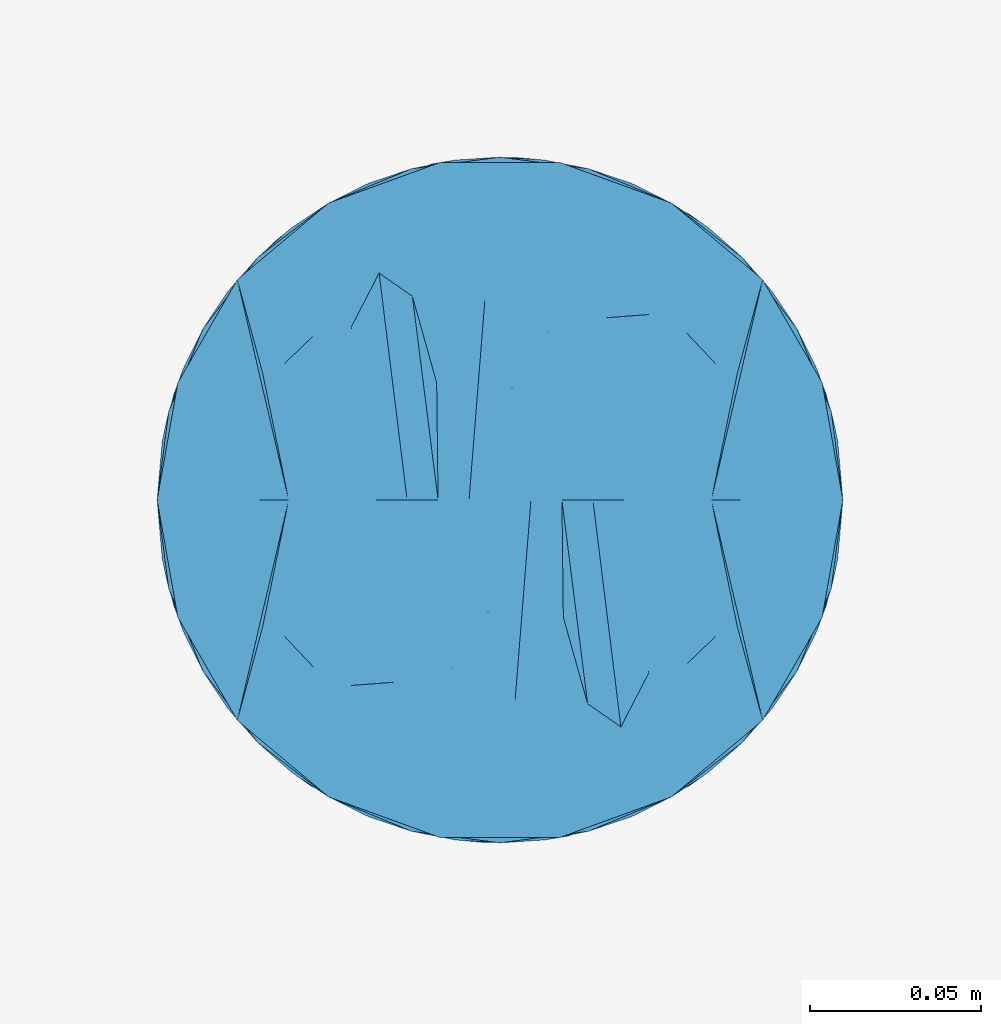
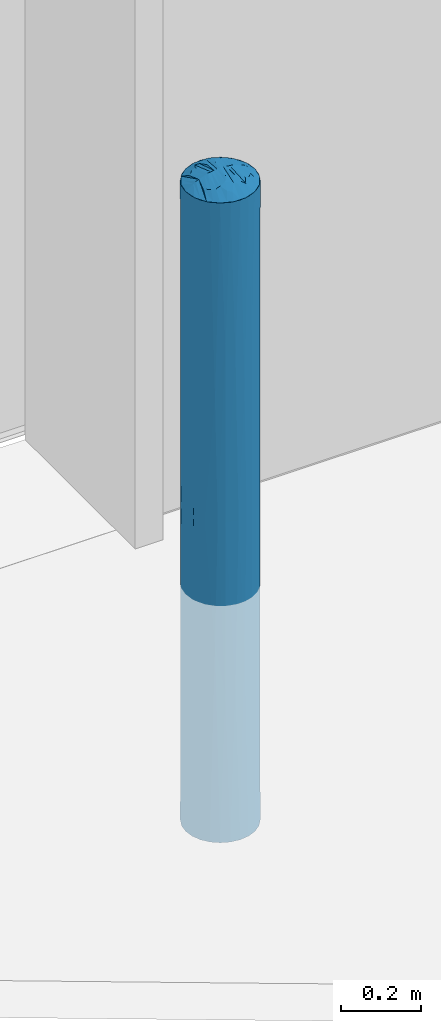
# One storey, part 43 of 77: 1 discrete accessory.
"""IFC2X3 building model written with IfcOpenShell, lengths in millimetres."""

import ifcopenshell
import ifcopenshell.guid

model = None  # the IFC model being written
_history = None  # IfcOwnerHistory: only IFC2X3 demands one
_inside = {}  # id of a spatial element -> (the spatial element, [elements in it])
_under = {}  # id of a project, library or spatial element -> (it, [spatial elements below it])
_declared = {}  # id of a project -> (the project, [libraries it declares])
_typed = {}  # id of a type object -> (the type object, [elements of that type])
_made_of = {}  # id of a material, layer set ... -> (it, [elements and type objects made of it])


def new_model(schema):
    """Start an empty IFC model of exactly this schema.

    Asked for "IFC4X3", IfcOpenShell would pick the latest addendum, in which some entities
    have other attributes; the version numbers below select the first issue.
    IFC2X3 requires an IfcOwnerHistory on every rooted entity: one is made here for all.
    """
    global model, _history
    if schema == "IFC4X3":
        model = ifcopenshell.file(schema_version=(4, 3, 0, 0))
    else:
        model = ifcopenshell.file(schema=schema)
    _inside.clear()
    _under.clear()
    _declared.clear()
    _typed.clear()
    _made_of.clear()
    _history = None
    if model.schema == "IFC2X3":
        org = make("IfcOrganization", Name="unknown")
        user = make(
            "IfcPersonAndOrganization",
            ThePerson=make("IfcPerson", FamilyName="unknown"),
            TheOrganization=org,
        )
        app = make(
            "IfcApplication",
            ApplicationDeveloper=org,
            Version="unknown",
            ApplicationFullName="unknown",
            ApplicationIdentifier="unknown",
        )
        _history = make(
            "IfcOwnerHistory",
            OwningUser=user,
            OwningApplication=app,
            ChangeAction="ADDED",
            CreationDate=0,
        )
    return model


def make(cls, **values):
    """One entity of the class cls with the attributes given. An attribute that is None is left unset."""
    return model.create_entity(
        cls, **{name: value for name, value in values.items() if value is not None}
    )


def entity(cls, *values):
    """Any entity or typed value of the class cls, its attributes in the order of the schema. None: left unset."""
    e = model.create_entity(cls)
    for i, value in enumerate(values):
        if value is not None:
            e[i] = value
    return e


def rooted(cls, **values):
    """An entity with a GlobalId (a new one), such as an element, a storey or a relation."""
    return make(cls, GlobalId=ifcopenshell.guid.new(), OwnerHistory=_history, **values)


def si_unit(unit_type, name, prefix=None):
    """IfcSIUnit, for example si_unit("LENGTHUNIT", "METRE", prefix="MILLI")."""
    return make("IfcSIUnit", UnitType=unit_type, Prefix=prefix, Name=name)


def converted_unit(unit_type, name, factor, base, dimensions=None, offset=None):
    """IfcConversionBasedUnit, such as the inch: factor (a typed value) times the base unit."""
    return make(
        "IfcConversionBasedUnit"
        if offset is None
        else "IfcConversionBasedUnitWithOffset",
        ConversionOffset=offset,
        Dimensions=None
        if dimensions is None
        else entity("IfcDimensionalExponents", *dimensions),
        UnitType=unit_type,
        Name=name,
        ConversionFactor=make(
            "IfcMeasureWithUnit", ValueComponent=factor, UnitComponent=base
        ),
    )


def derived_unit(unit_type, elements):
    """IfcDerivedUnit: a product of units, each with its exponent."""
    return make(
        "IfcDerivedUnit",
        Elements=[
            make("IfcDerivedUnitElement", Unit=unit, Exponent=power)
            for unit, power in elements
        ],
        UnitType=unit_type,
    )


def assignment(units):
    """IfcUnitAssignment: the units of a project."""
    return None if units is None else make("IfcUnitAssignment", Units=units)


def point(xyz):
    """IfcCartesianPoint."""
    return None if xyz is None else make("IfcCartesianPoint", Coordinates=xyz)


def direction(xyz):
    """IfcDirection."""
    return None if xyz is None else make("IfcDirection", DirectionRatios=xyz)


def frame(location, z_axis=None, x_axis=None):
    """IfcAxis2Placement3D, a coordinate frame: its origin and axes. An axis left out is left unset."""
    return make(
        "IfcAxis2Placement3D",
        Location=point(location),
        Axis=direction(z_axis),
        RefDirection=direction(x_axis),
    )


def origin():
    """The frame at (0, 0, 0) with its axes left unset."""
    return frame((0.0, 0.0, 0.0))


def place(relative_to, where):
    """IfcLocalPlacement: puts the frame where relative to a parent placement (None: the world)."""
    return make(
        "IfcLocalPlacement", PlacementRelTo=relative_to, RelativePlacement=where
    )


def context(
    kind, dimensions, precision=None, world=None, true_north=None, identifier=None
):
    """IfcGeometricRepresentationContext, for example the 3D "Model" context."""
    return make(
        "IfcGeometricRepresentationContext",
        ContextIdentifier=identifier,
        ContextType=kind,
        CoordinateSpaceDimension=dimensions,
        Precision=precision,
        WorldCoordinateSystem=world,
        TrueNorth=true_north,
    )


def subcontext(parent, identifier, kind, view, scale=None):
    """IfcGeometricRepresentationSubContext, for example "Body" below "Model"."""
    return make(
        "IfcGeometricRepresentationSubContext",
        ContextIdentifier=identifier,
        ContextType=kind,
        ParentContext=parent,
        TargetScale=scale,
        TargetView=view,
    )


def project(units=None, contexts=None):
    """IfcProject with its units and contexts."""
    return rooted(
        "IfcProject",
        Name="project",
        RepresentationContexts=contexts,
        UnitsInContext=assignment(units),
    )


def spatial(cls, under=None, at=None, **own):
    """A site, building, storey or space (cls), placed at a placement, below another one or the project."""
    s = rooted(cls, ObjectPlacement=at, **own)
    if under is not None:
        _under.setdefault(under.id(), (under, []))[1].append(s)
    return s


def faces_of(points, faces, orient=None, outer=None):
    """IfcFace entities. A face is a list of loops; a loop is a list of indices into points, from 0.

    orient and outer hold one flag for each loop. By default every Orientation is true, the
    first loop of a face is its IfcFaceOuterBound and the others are IfcFaceBound.
    """
    made = []
    for i, loops in enumerate(faces):
        bounds = []
        for j, loop in enumerate(loops):
            is_outer = j == 0 if outer is None else outer[i][j]
            bounds.append(
                make(
                    "IfcFaceOuterBound" if is_outer else "IfcFaceBound",
                    Bound=make("IfcPolyLoop", Polygon=[points[k] for k in loop]),
                    Orientation=True if orient is None else orient[i][j],
                )
            )
        made.append(make("IfcFace", Bounds=bounds))
    return made


def faceted_brep(points, faces, orient=None, outer=None, voids=None):
    """IfcFacetedBrep: a solid bounded by flat faces; with voids (closed shells), ...WithVoids."""
    shared = [point(p) for p in points]
    hull = make("IfcClosedShell", CfsFaces=faces_of(shared, faces, orient, outer))
    if voids is None:
        return make("IfcFacetedBrep", Outer=hull)
    return make(
        "IfcFacetedBrepWithVoids",
        Outer=hull,
        Voids=[
            make(cls, CfsFaces=faces_of(shared, fs, o, b)) for cls, fs, o, b in voids
        ],
    )


def shape(context_of_items, identifier, shape_type, items):
    """IfcShapeRepresentation: the items that make up one representation, for example the "Body"."""
    return make(
        "IfcShapeRepresentation",
        ContextOfItems=context_of_items,
        RepresentationIdentifier=identifier,
        RepresentationType=shape_type,
        Items=items,
    )


def source(mapping_origin, context_of_items, identifier, shape_type, items):
    """IfcRepresentationMap: a shape defined once, which mapped items show again and again."""
    return make(
        "IfcRepresentationMap",
        MappingOrigin=mapping_origin,
        MappedRepresentation=shape(context_of_items, identifier, shape_type, items),
    )


def transform(
    local_origin,
    x_axis=None,
    y_axis=None,
    z_axis=None,
    scale=None,
    scale2=None,
    scale3=None,
    uniform=True,
):
    """IfcCartesianTransformationOperator3D, or its non-uniform kind. x_axis, y_axis, z_axis: its Axis1, 2, 3."""
    if uniform:
        return make(
            "IfcCartesianTransformationOperator3D",
            Axis1=direction(x_axis),
            Axis2=direction(y_axis),
            LocalOrigin=point(local_origin),
            Scale=scale,
            Axis3=direction(z_axis),
        )
    return make(
        "IfcCartesianTransformationOperator3DnonUniform",
        Axis1=direction(x_axis),
        Axis2=direction(y_axis),
        LocalOrigin=point(local_origin),
        Scale=scale,
        Axis3=direction(z_axis),
        Scale2=scale2,
        Scale3=scale3,
    )


def mapped(mapping_source, mapping_target):
    """IfcMappedItem: shows the shape of a source again, moved by a transform."""
    return make(
        "IfcMappedItem", MappingSource=mapping_source, MappingTarget=mapping_target
    )


def material(Name=None, Category=None):
    """IfcMaterial."""
    return make("IfcMaterial", Name=Name, Category=Category)


def made_of(thing, what):
    """Note that an element or type object is made of a material, layer set ...; save() writes the relation."""
    if what is not None:
        _made_of.setdefault(what.id(), (what, []))[1].append(thing)
    return thing


def type_object(cls, material=None, **own):
    """A type object (cls), such as IfcWallType, which elements share."""
    return made_of(rooted(cls, **own), material)


def type_shapes(of_type, sources):
    """Give a type object the sources (RepresentationMaps) that its elements show as mapped items."""
    of_type.RepresentationMaps = sources


def element(
    cls,
    number,
    at=None,
    inside=None,
    cuts=None,
    type_object=None,
    material=None,
    context=None,
    identifier="Body",
    shape_type=None,
    held_by="IfcProductDefinitionShape",
    body=None,
    shapes=None,
    **own,
):
    """One element of the class cls, such as IfcWall. Its Tag is "e" and its number.

    at: its placement. inside: the storey or other place that contains it. cuts: it is an
    opening in that element (IfcRelVoidsElement). A single representation is given by context,
    identifier, shape_type and body (its items); several are given by shapes. held_by: the class
    of the entity that holds the representations. save() writes the other relations.
    """
    e = rooted(cls, Tag="e%d" % number, ObjectPlacement=at, **own)
    if body is not None:
        shapes = [shape(context, identifier, shape_type, body)]
    if shapes is not None:
        e.Representation = make(held_by, Representations=shapes)
    if inside is not None:
        _inside.setdefault(inside.id(), (inside, []))[1].append(e)
    if cuts is not None:
        rooted(
            "IfcRelVoidsElement", RelatingBuildingElement=cuts, RelatedOpeningElement=e
        )
    if type_object is not None:
        _typed.setdefault(type_object.id(), (type_object, []))[1].append(e)
    return made_of(e, material)


def aggregate(whole, parts):
    """IfcRelAggregates: a whole, such as a stair, and the parts it consists of."""
    return rooted("IfcRelAggregates", RelatingObject=whole, RelatedObjects=parts)


def save(model, path):
    """Write the relations noted so far, then the file.

    IfcRelAggregates (storeys below a building ...), IfcRelContainedInSpatialStructure (elements
    in a storey), IfcRelDefinesByType, IfcRelAssociatesMaterial and IfcRelDeclares: one each for
    every whole, place, type object, material and project.
    """
    for whole, parts in _under.values():
        aggregate(whole, parts)
    for where, things in _inside.values():
        rooted(
            "IfcRelContainedInSpatialStructure",
            RelatedElements=things,
            RelatingStructure=where,
        )
    for kind, things in _typed.values():
        rooted("IfcRelDefinesByType", RelatedObjects=things, RelatingType=kind)
    for what, things in _made_of.values():
        rooted("IfcRelAssociatesMaterial", RelatedObjects=things, RelatingMaterial=what)
    for by, libraries in _declared.values():
        rooted("IfcRelDeclares", RelatingContext=by, RelatedDefinitions=libraries)
    model.write(path)


model = new_model("IFC2X3")

# Units and contexts
model_context = context("Model", 3, precision=0.01, world=origin(), true_north=direction((6.12303176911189e-17, 1.0)))
body_context = subcontext(model_context, "Body", "Model", "MODEL_VIEW")
ifc_project = project(units=[si_unit("LENGTHUNIT", "METRE", prefix="MILLI"), si_unit("AREAUNIT", "SQUARE_METRE"), si_unit("VOLUMEUNIT", "CUBIC_METRE"), converted_unit("PLANEANGLEUNIT", "DEGREE", entity("IfcRatioMeasure", 0.0174532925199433), si_unit("PLANEANGLEUNIT", "RADIAN"), dimensions=[0, 0, 0, 0, 0, 0, 0]), si_unit("MASSUNIT", "GRAM", prefix="KILO"), derived_unit("MASSDENSITYUNIT", [(si_unit("MASSUNIT", "GRAM", prefix="KILO"), 1), (si_unit("LENGTHUNIT", "METRE"), -3)]), si_unit("TIMEUNIT", "SECOND"), si_unit("FREQUENCYUNIT", "HERTZ"), si_unit("THERMODYNAMICTEMPERATUREUNIT", "DEGREE_CELSIUS"), derived_unit("THERMALTRANSMITTANCEUNIT", [(si_unit("MASSUNIT", "GRAM", prefix="KILO"), 1), (si_unit("THERMODYNAMICTEMPERATUREUNIT", "KELVIN"), -1), (si_unit("TIMEUNIT", "SECOND"), -3)]), derived_unit("VOLUMETRICFLOWRATEUNIT", [(si_unit("LENGTHUNIT", "METRE"), 3), (si_unit("TIMEUNIT", "SECOND"), -1)]), si_unit("ELECTRICCURRENTUNIT", "AMPERE"), si_unit("ELECTRICVOLTAGEUNIT", "VOLT"), si_unit("POWERUNIT", "WATT"), si_unit("FORCEUNIT", "NEWTON", prefix="KILO"), si_unit("ILLUMINANCEUNIT", "LUX"), si_unit("LUMINOUSFLUXUNIT", "LUMEN"), si_unit("LUMINOUSINTENSITYUNIT", "CANDELA"), derived_unit("USERDEFINED", [(si_unit("MASSUNIT", "GRAM", prefix="KILO"), -1), (si_unit("LENGTHUNIT", "METRE"), -2), (si_unit("TIMEUNIT", "SECOND"), 3), (si_unit("LUMINOUSFLUXUNIT", "LUMEN"), 1)]), derived_unit("LINEARVELOCITYUNIT", [(si_unit("LENGTHUNIT", "METRE"), 1), (si_unit("TIMEUNIT", "SECOND"), -1)]), si_unit("PRESSUREUNIT", "PASCAL"), derived_unit("USERDEFINED", [(si_unit("LENGTHUNIT", "METRE"), -2), (si_unit("MASSUNIT", "GRAM", prefix="KILO"), 1), (si_unit("TIMEUNIT", "SECOND"), -2)])], contexts=[model_context])

# Site, building, storey
site_placement = place(None, origin())
site = spatial("IfcSite", under=ifc_project, at=site_placement, Name="Default", CompositionType="ELEMENT")
building_placement = place(site_placement, origin())
building = spatial("IfcBuilding", under=site, at=building_placement, CompositionType="ELEMENT")
storey_placement = place(building_placement, origin())
storey = spatial("IfcBuildingStorey", under=building, at=storey_placement, Name="1. KORRUS", CompositionType="ELEMENT", Elevation=0.0)

# Discrete accessory
ifc_material = material(Name="Default New Material-must-varv")
discrete_accessory_type = type_object("IfcDiscreteAccessoryType", Name="ukse-pollar", material=ifc_material)
shared_shape = source(origin(), body_context, "Body", "Brep", [
    faceted_brep([(93.969262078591, -34.2020143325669, 1200.0), (95.8287421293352, -23.6563789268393, 1200.0), (97.6882221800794, -13.1107435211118, 1200.0), (100.0, 0.0, 1200.0), (91.8749158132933, 0.0, 1205.6559032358), (83.7498316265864, 0.0, 1211.3118064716), (76.9390417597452, 0.0, 1216.05282423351), (69.2436158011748, -37.0764107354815, 1215.9880775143), (62.8416939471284, -39.8030161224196, 1218.4526620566), (63.3022221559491, -75.4406506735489, 1200.0), (-91.8749158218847, 0.0, 1205.65590322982), (-100.0, 0.0, 1200.0), (-97.6882221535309, -13.110743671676, 1200.0), (-95.8287421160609, -23.6563790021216, 1200.0), (-93.9692620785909, -34.2020143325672, 1200.0), (-76.9390417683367, 0.0, 1216.05282422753), (-83.7498316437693, 0.0, 1211.31180645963), (76.604444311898, -64.278760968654, 1200.0), (61.6281008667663, 0.0, 1224.0406107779), (85.2868531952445, -49.2403876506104, 1200.0), (4.40844307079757, -58.3778316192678, 1226.30016518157), (9.03191194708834, 0.0, 1237.09268012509), (-3.54862814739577, -32.9400963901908, 1234.4920463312), (44.627798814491, 0.0, 1230.53414834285), (54.6170308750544, -47.6944043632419, 1219.50624940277), (17.3648177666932, -98.4807753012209, 1200.0), (33.6824088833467, -92.5416578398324, 1200.0), (25.5588463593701, -59.4119136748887, 1223.53680168), (50.0, -86.6025403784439, 1200.0), (43.4209832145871, -50.3665618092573, 1222.6504135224), (36.1276477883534, 0.0, 1233.78091712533), (-85.2868531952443, -49.2403876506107, 1200.0), (-70.128251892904, 0.0, 1220.79384199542), (-76.6044443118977, -64.2787609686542, 1200.0), (-61.6281008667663, 0.0, 1224.0406107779), (70.128251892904, 0.0, 1220.79384199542), (-43.3922707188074, -54.0995868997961, 1221.20165944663), (-54.4185160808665, -48.7244133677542, 1219.21017541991), (-50.0, -86.6025403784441, 1200.0), (35.2622305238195, -66.2009236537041, 1218.09661192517), (27.095735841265, 0.0, 1234.88483812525), (-63.3022221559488, -75.4406506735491, 1200.0), (-62.8416940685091, -39.8030246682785, 1218.45265938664), (18.4754636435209, -34.2574490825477, 1233.0588958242), (18.0638238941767, 0.0, 1235.98875912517), (-53.1279498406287, 0.0, 1227.28737956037), (-69.2436179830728, -37.0764202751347, 1215.98807356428), (15.0400910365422, -63.9380091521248, 1223.05106581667), (0.0, -98.4807753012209, 1200.0), (-21.4967364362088, -71.3818883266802, 1218.36002279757), (-31.093916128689, -53.1550996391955, 1224.97270928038), (-33.6824088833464, -92.5416578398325, 1200.0), (-36.1276477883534, 0.0, 1233.78091712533), (-27.095735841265, 0.0, 1234.88483812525), (-13.9644320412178, -48.8776365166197, 1229.32055829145), (53.1279498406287, 0.0, 1227.28737956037), (-44.627798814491, 0.0, 1230.53414834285), (-18.0638238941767, 0.0, 1235.98875912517), (-9.03191194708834, 0.0, 1237.09268012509), (-9.80597558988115, -78.5292492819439, 1215.62108797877), (-17.3648177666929, -98.480775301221, 1200.0), (0.0, 0.0, 1238.19660112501), (-93.9692620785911, 34.2020143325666, 1200.0), (-95.8287421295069, 23.6563789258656, 1200.0), (-97.6882221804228, 13.1107435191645, 1200.0), (50.0, 86.6025403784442, 1200.0), (54.4185175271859, 48.7244091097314, 1219.21017640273), (63.3022221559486, 75.4406506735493, 1200.0), (97.6882221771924, 13.110743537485, 1200.0), (95.8287421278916, 23.6563789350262, 1200.0), (93.9692620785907, 34.2020143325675, 1200.0), (-76.6044443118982, 64.2787609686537, 1200.0), (-69.2436157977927, 37.076410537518, 1215.98807757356), (-85.2868531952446, 49.2403876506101, 1200.0), (-4.40844201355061, 58.377832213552, 1226.30016496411), (3.5486282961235, 32.9400954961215, 1234.4920465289), (-54.6170308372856, 47.6944042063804, 1219.50624947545), (-62.8416938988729, 39.8030161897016, 1218.45266205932), (-17.3648177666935, 98.4807753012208, 1200.0), (-33.6824088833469, 92.5416578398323, 1200.0), (-25.5588462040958, 59.4119134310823, 1223.53680181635), (85.2868531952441, 49.240387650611, 1200.0), (-43.420983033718, 50.3665619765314, 1222.65041351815), (62.8416939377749, 39.803016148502, 1218.45266205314), (43.3922717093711, 54.0995849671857, 1221.20165990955), (-50.0, 86.6025403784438, 1200.0), (-63.3022221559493, 75.4406506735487, 1200.0), (-18.4754634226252, 34.2574489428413, 1233.05889588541), (76.6044443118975, 64.2787609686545, 1200.0), (69.2436157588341, 37.0764105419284, 1215.98807759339), (-35.2622303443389, 66.2009242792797, 1218.09661165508), (-15.0400904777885, 63.938008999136, 1223.05106595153), (0.0, 98.4807753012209, 1200.0), (21.4967358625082, 71.3818881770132, 1218.3600229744), (31.0939160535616, 53.1551002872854, 1224.97270904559), (33.6824088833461, 92.5416578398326, 1200.0), (13.964432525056, 48.8776338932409, 1229.32055915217), (9.80597229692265, 78.5292495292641, 1215.62108807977), (17.3648177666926, 98.480775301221, 1200.0), (0.0, 0.0, 1200.0)], [[[0, 1, 2, 3, 4, 5, 6]], [[7, 8, 9]], [[10, 11, 12, 13, 14, 15, 16]], [[17, 18, 7]], [[0, 6, 19]], [[17, 19, 18]], [[20, 21, 22]], [[23, 24, 8]], [[25, 26, 27]], [[28, 24, 29]], [[29, 24, 30]], [[31, 32, 15]], [[33, 34, 31]], [[35, 19, 6]], [[32, 31, 34]], [[36, 37, 38]], [[39, 29, 40]], [[15, 14, 31]], [[41, 37, 42]], [[21, 43, 44]], [[18, 19, 35]], [[45, 34, 46]], [[38, 37, 41]], [[42, 45, 46]], [[40, 44, 27]], [[43, 20, 47]], [[28, 39, 26]], [[48, 25, 47]], [[49, 50, 51]], [[52, 36, 53]], [[22, 54, 20]], [[29, 30, 40]], [[26, 39, 27]], [[8, 55, 23]], [[9, 24, 28]], [[23, 30, 24]], [[55, 8, 7]], [[9, 8, 24]], [[56, 42, 37]], [[54, 50, 49]], [[50, 53, 36]], [[53, 50, 57]], [[54, 57, 50]], [[38, 51, 36]], [[58, 57, 54]], [[20, 59, 48]], [[52, 37, 36]], [[50, 36, 51]], [[45, 42, 56]], [[37, 52, 56]], [[33, 41, 46]], [[55, 7, 18]], [[17, 7, 9]], [[42, 46, 41]], [[33, 46, 34]], [[27, 43, 47]], [[44, 43, 27]], [[43, 21, 20]], [[47, 25, 27]], [[60, 59, 49]], [[20, 48, 47]], [[27, 39, 40]], [[29, 39, 28]], [[54, 22, 58]], [[61, 58, 22]], [[61, 22, 21]], [[54, 49, 59]], [[60, 49, 51]], [[54, 59, 20]], [[59, 60, 48]], [[62, 63, 64, 11, 10, 16, 15]], [[65, 66, 67]], [[4, 3, 68, 69, 70, 6, 5]], [[71, 34, 72]], [[71, 73, 34]], [[74, 58, 75]], [[56, 76, 77]], [[78, 79, 80]], [[35, 81, 18]], [[82, 76, 52]], [[67, 66, 83]], [[62, 15, 73]], [[70, 81, 6]], [[32, 73, 15]], [[84, 66, 65]], [[85, 76, 82]], [[72, 77, 86]], [[6, 81, 35]], [[58, 87, 57]], [[88, 18, 81]], [[34, 73, 32]], [[55, 18, 89]], [[83, 55, 89]], [[90, 82, 53]], [[53, 57, 80]], [[87, 74, 91]], [[85, 90, 79]], [[92, 78, 91]], [[93, 94, 95]], [[30, 84, 40]], [[75, 96, 74]], [[82, 52, 53]], [[79, 90, 80]], [[77, 45, 56]], [[86, 76, 85]], [[56, 52, 76]], [[45, 77, 72]], [[86, 77, 76]], [[23, 83, 66]], [[96, 94, 93]], [[94, 40, 84]], [[40, 94, 44]], [[96, 44, 94]], [[65, 95, 84]], [[21, 44, 96]], [[74, 97, 92]], [[30, 66, 84]], [[94, 84, 95]], [[55, 83, 23]], [[66, 30, 23]], [[88, 67, 89]], [[45, 72, 34]], [[71, 72, 86]], [[83, 89, 67]], [[88, 89, 18]], [[80, 87, 91]], [[57, 87, 80]], [[87, 58, 74]], [[91, 78, 80]], [[98, 97, 93]], [[74, 92, 91]], [[80, 90, 53]], [[82, 90, 85]], [[96, 75, 21]], [[61, 21, 75]], [[61, 75, 58]], [[96, 93, 97]], [[98, 93, 95]], [[96, 97, 74]], [[97, 98, 92]], [[99, 33, 31]], [[99, 31, 14]], [[99, 14, 13]], [[99, 41, 33]], [[99, 38, 41]], [[99, 51, 38]], [[99, 60, 51]], [[99, 13, 12]], [[99, 12, 11]], [[99, 11, 64]], [[99, 48, 60]], [[99, 25, 48]], [[99, 26, 25]], [[99, 28, 26]], [[99, 9, 28]], [[99, 17, 9]], [[99, 19, 17]], [[99, 0, 19]], [[99, 1, 0]], [[99, 2, 1]], [[99, 3, 2]], [[99, 64, 63]], [[99, 63, 62]], [[99, 62, 73]], [[99, 73, 71]], [[99, 71, 86]], [[99, 86, 85]], [[99, 85, 79]], [[99, 79, 78]], [[99, 78, 92]], [[99, 68, 3]], [[99, 69, 68]], [[99, 70, 69]], [[99, 81, 70]], [[99, 88, 81]], [[99, 67, 88]], [[99, 65, 67]], [[99, 95, 65]], [[99, 98, 95]], [[99, 92, 98]]]),
    faceted_brep([(70.7106781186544, 70.7106781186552, 1200.0), (50.0, 86.6025403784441, 1200.0), (25.8819045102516, 96.592582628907, 1200.0), (0.0, 100.0, 1200.0), (-25.8819045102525, 96.5925826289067, 1200.0), (-50.0, 86.6025403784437, 1200.0), (-70.710678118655, 70.7106781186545, 1200.0), (-86.6025403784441, 50.0, 1200.0), (-96.5925826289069, 25.8819045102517, 1200.0), (-100.0, 0.0, 1200.0), (-96.5925826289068, -25.8819045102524, 1200.0), (-86.6025403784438, -50.0, 1200.0), (-70.7106781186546, -70.7106781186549, 1200.0), (-50.0, -86.602540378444, 1200.0), (-25.8819045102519, -96.5925826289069, 1200.0), (0.0, -100.0, 1200.0), (25.8819045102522, -96.5925826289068, 1200.0), (50.0, -86.6025403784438, 1200.0), (70.7106781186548, -70.7106781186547, 1200.0), (86.6025403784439, -50.0, 1200.0), (96.5925826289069, -25.8819045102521, 1200.0), (100.0, 0.0, 1200.0), (96.5925826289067, 25.8819045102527, 1200.0), (86.6025403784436, 50.0, 1200.0), (50.0, -86.6025403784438, -750.0), (25.8819045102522, -96.5925826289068, -750.0), (0.0, -100.0, -750.0), (-25.8819045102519, -96.5925826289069, -750.0), (-50.0, -86.602540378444, -750.0), (-70.7106781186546, -70.7106781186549, -750.0), (-86.6025403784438, -50.0, -750.0), (-96.5925826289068, -25.8819045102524, -750.0), (-100.0, 0.0, -750.0), (-96.5925826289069, 25.8819045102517, -750.0), (-86.6025403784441, 50.0, -750.0), (-70.710678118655, 70.7106781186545, -750.0), (-50.0, 86.6025403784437, -750.0), (-25.8819045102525, 96.5925826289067, -750.0), (0.0, 100.0, -750.0), (25.8819045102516, 96.592582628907, -750.0), (50.0, 86.6025403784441, -750.0), (70.7106781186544, 70.7106781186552, -750.0), (86.6025403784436, 50.0, -750.0), (96.5925826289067, 25.8819045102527, -750.0), (100.0, 0.0, -750.0), (96.5925826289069, -25.8819045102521, -750.0), (86.6025403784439, -50.0, -750.0), (70.7106781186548, -70.7106781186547, -750.0), (-92.387953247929, 38.2683432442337, -285.980854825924), (-95.1291375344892, 30.8293235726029, 225.0), (-79.3353340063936, 60.8761429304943, 225.0), (-60.8761428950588, 79.3353340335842, -151.214692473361), (-38.2683432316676, 92.3879532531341, -299.59510263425), (60.8761429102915, 79.3353340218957, 601.214692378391), (79.335334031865, 60.8761428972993, 225.0), (55.4391010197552, 83.225633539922, 225.0), (-79.3353340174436, 60.8761429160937, 749.595102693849), (4.65337325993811, 99.8916719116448, 225.0), (13.0526192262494, 99.1444861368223, -269.40187286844), (-13.0526192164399, 99.1444861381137, -151.214692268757), (-38.2683432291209, 92.387953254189, 225.0), (-38.2683432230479, 92.3879532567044, 749.595102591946), (-19.6480455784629, 98.0507741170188, 225.0), (-79.3353340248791, 60.8761429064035, -299.595102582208), (-60.876142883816, 79.3353340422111, 601.214692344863), (60.8761429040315, 79.3353340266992, -151.214692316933), (79.335334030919, 60.8761428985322, -299.595102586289), (-98.5078583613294, 17.2105154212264, -334.254320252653), (-100.0, 0.0, -51.6568483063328), (-100.0, 0.0, 501.662546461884), (-98.507858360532, 17.2105154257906, 784.254320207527), (-92.3879532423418, 38.2683432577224, 735.980854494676), (100.0, 0.0, -51.6591080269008), (95.1291375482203, 30.8293235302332, 225.0), (100.0, 0.0, 501.659108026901), (-55.4391010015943, 83.2256335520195, 225.0), (38.2683432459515, 92.3879532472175, 749.595102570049), (-13.0526192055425, 99.1444861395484, 601.214692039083), (38.2683432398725, 92.3879532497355, -299.595102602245), (92.3879532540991, 38.2683432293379, 735.980854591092), (92.3879532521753, 38.2683432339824, -285.980854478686), (79.335334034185, 60.8761428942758, 749.595102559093), (98.5078583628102, 17.2105154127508, 784.254320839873), (13.0526192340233, 99.1444861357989, 719.401872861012), (98.5078583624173, 17.2105154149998, -334.254320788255), (38.268343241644, 92.3879532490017, 225.0), (98.5078583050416, -17.210515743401, -334.254323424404), (-60.876142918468, -79.3353340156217, -151.214692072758), (-79.3353340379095, -60.8761428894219, -299.595102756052), (79.3353338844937, -60.8761430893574, -299.595101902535), (13.0526191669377, -99.1444861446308, -151.214692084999), (38.2683431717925, -92.3879532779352, -299.595102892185), (38.2683431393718, -92.3879532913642, 225.0), (38.2683431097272, -92.3879533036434, 749.595103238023), (19.6480455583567, -98.0507741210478, 225.0), (-13.0526193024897, -99.1444861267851, 719.401872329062), (60.8761427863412, -79.3353341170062, -151.214692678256), (66.0410934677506, -75.0904386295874, 225.000002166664), (-4.6533732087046, -99.8916719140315, 224.999998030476), (-13.0526192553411, -99.1444861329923, -269.401871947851), (95.1291373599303, -30.829324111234, 225.000013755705), (-95.1291375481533, -30.8293235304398, 225.0), (-98.5078583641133, -17.210515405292, -334.254320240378), (-92.3879532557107, -38.2683432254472, -285.980854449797), (79.3353338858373, -60.8761430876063, 749.595105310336), (79.3353338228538, -60.876143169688, 225.000002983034), (92.3879530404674, -38.2683437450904, -285.980851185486), (-38.2683432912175, -92.3879532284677, 749.595102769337), (92.38795316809, -38.2683434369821, 735.980862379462), (60.8761427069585, -79.3353341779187, 601.214694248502), (13.0526190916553, -99.144486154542, 601.214690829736), (-60.8761429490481, -79.3353339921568, 601.214692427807), (-79.3353340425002, -60.8761428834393, 225.0), (-55.4391010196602, -83.2256335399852, 225.0), (-38.2683432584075, -92.387953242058, -299.595102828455), (-92.3879532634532, -38.268343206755, 735.980854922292), (-79.3353340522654, -60.8761428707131, 749.59510268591), (-98.5078583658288, -17.2105153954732, 784.254320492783), (98.5078583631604, -17.2105154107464, 784.25432452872), (-38.2683432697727, -92.3879532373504, 225.0)], [[[0, 1, 2, 3, 4, 5, 6, 7, 8, 9, 10, 11, 12, 13, 14, 15, 16, 17, 18, 19, 20, 21, 22, 23]], [[24, 25, 26, 27, 28, 29, 30, 31, 32, 33, 34, 35, 36, 37, 38, 39, 40, 41, 42, 43, 44, 45, 46, 47]], [[48, 49, 50]], [[36, 51, 52]], [[53, 54, 55]], [[7, 6, 56]], [[52, 37, 36]], [[57, 58, 59]], [[60, 61, 62, 52]], [[50, 51, 63]], [[50, 56, 64]], [[41, 65, 66]], [[52, 62, 59]], [[48, 34, 33]], [[32, 67, 33]], [[49, 68, 69]], [[63, 35, 34]], [[41, 40, 65]], [[70, 71, 49]], [[72, 73, 74]], [[38, 37, 59]], [[64, 61, 75]], [[76, 2, 1]], [[5, 64, 6]], [[61, 5, 4]], [[4, 77, 61]], [[61, 60, 52, 75]], [[78, 40, 39]], [[39, 38, 58]], [[51, 50, 75]], [[66, 42, 41]], [[79, 73, 54]], [[54, 80, 66]], [[54, 81, 79]], [[22, 82, 79]], [[33, 67, 48]], [[6, 64, 56]], [[21, 82, 22]], [[77, 4, 3]], [[3, 83, 77]], [[42, 80, 43]], [[51, 36, 35]], [[70, 69, 9]], [[68, 67, 32]], [[53, 81, 54]], [[54, 66, 65]], [[84, 72, 44]], [[74, 82, 21]], [[78, 55, 65]], [[1, 0, 53]], [[73, 84, 80]], [[8, 7, 71]], [[81, 0, 23]], [[50, 71, 56]], [[50, 63, 48]], [[59, 58, 38]], [[83, 3, 2]], [[23, 22, 79]], [[1, 53, 76]], [[78, 85, 76, 55]], [[39, 58, 78]], [[57, 83, 85]], [[57, 62, 77]], [[85, 83, 76]], [[85, 78, 58]], [[63, 34, 48]], [[68, 49, 67]], [[8, 71, 70]], [[49, 71, 50]], [[81, 23, 79]], [[74, 73, 82]], [[43, 80, 84]], [[73, 80, 54]], [[37, 52, 59]], [[5, 61, 64]], [[40, 78, 65]], [[2, 76, 83]], [[7, 56, 71]], [[35, 63, 51]], [[42, 66, 80]], [[0, 81, 53]], [[58, 57, 85]], [[57, 77, 83]], [[48, 67, 49]], [[8, 70, 9]], [[69, 70, 49]], [[79, 82, 73]], [[43, 84, 44]], [[72, 84, 73]], [[59, 62, 57]], [[77, 62, 61]], [[64, 75, 50]], [[51, 75, 52]], [[65, 55, 54]], [[53, 55, 76]], [[45, 44, 86]], [[29, 87, 88]], [[89, 47, 46]], [[26, 25, 90]], [[91, 25, 24]], [[92, 93, 94, 91]], [[95, 15, 14]], [[96, 89, 97]], [[98, 99, 90]], [[94, 90, 91]], [[74, 100, 72]], [[101, 102, 103]], [[29, 28, 87]], [[24, 47, 96]], [[104, 19, 18]], [[105, 106, 100]], [[107, 14, 13]], [[108, 20, 19]], [[93, 92, 109]], [[92, 91, 96]], [[93, 17, 16]], [[18, 17, 109]], [[45, 106, 46]], [[16, 110, 93]], [[111, 112, 113]], [[114, 28, 27]], [[89, 105, 104, 97]], [[18, 109, 104]], [[88, 30, 29]], [[115, 101, 112]], [[24, 96, 91]], [[112, 103, 88]], [[112, 116, 115]], [[45, 86, 106]], [[109, 92, 97]], [[9, 117, 10]], [[110, 16, 15]], [[15, 95, 110]], [[116, 12, 11]], [[11, 10, 115]], [[118, 74, 21]], [[111, 116, 112]], [[112, 88, 87]], [[105, 108, 104]], [[114, 113, 87]], [[13, 12, 111]], [[102, 68, 32]], [[69, 117, 9]], [[30, 103, 31]], [[100, 118, 108]], [[10, 117, 115]], [[90, 99, 26]], [[27, 26, 99]], [[68, 101, 69]], [[13, 111, 107]], [[114, 119, 107, 113]], [[27, 99, 114]], [[98, 95, 119]], [[98, 94, 110]], [[119, 95, 107]], [[119, 114, 99]], [[89, 46, 106]], [[72, 100, 86]], [[20, 108, 118]], [[100, 108, 105]], [[116, 11, 115]], [[69, 101, 117]], [[31, 103, 102]], [[101, 103, 112]], [[47, 89, 96]], [[105, 89, 106]], [[19, 104, 108]], [[25, 91, 90]], [[17, 93, 109]], [[28, 114, 87]], [[14, 107, 95]], [[30, 88, 103]], [[12, 116, 111]], [[99, 98, 119]], [[98, 110, 95]], [[106, 86, 100]], [[72, 86, 44]], [[20, 118, 21]], [[74, 118, 100]], [[115, 117, 101]], [[31, 102, 32]], [[68, 102, 101]], [[96, 97, 92]], [[109, 97, 104]], [[90, 94, 98]], [[110, 94, 93]], [[87, 113, 112]], [[111, 113, 107]]]),
])
type_shapes(discrete_accessory_type, [shared_shape])
discrete_accessory_placement = place(storey_placement, frame((19710.0321791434, -750.0, 0.0), z_axis=(0.0, 0.0, 1.0), x_axis=(-1.0, 0.0, 0.0)))
element("IfcDiscreteAccessory", 1, at=discrete_accessory_placement, inside=storey, type_object=discrete_accessory_type, material=ifc_material, Name="ukse-pollar:ukse-pollar", ObjectType="ukse-pollar", context=body_context, shape_type="MappedRepresentation", body=[
    mapped(shared_shape, transform((0.0, 0.0, 0.0), scale=1.0)),
])

save(model, "model.ifc")
